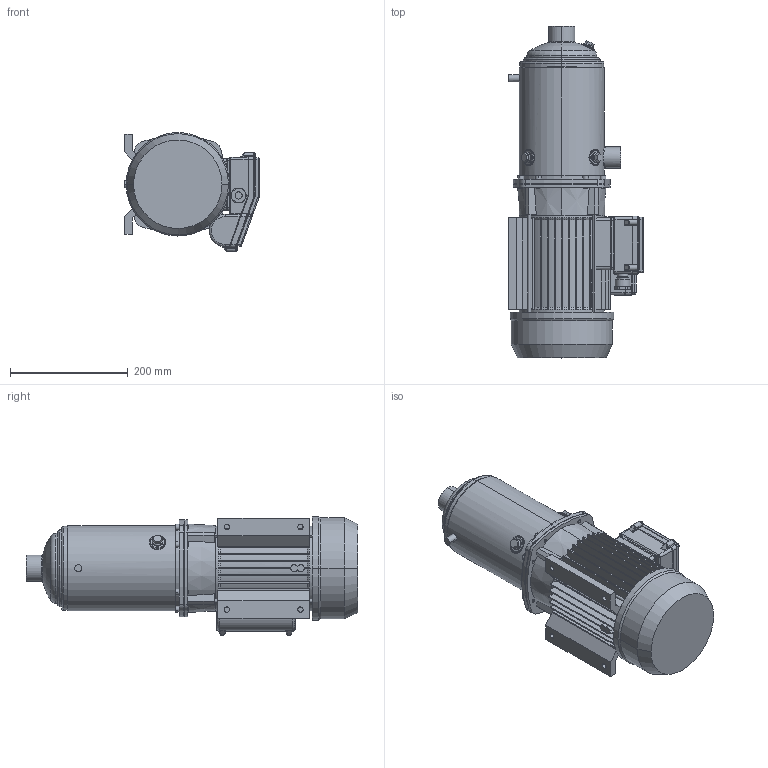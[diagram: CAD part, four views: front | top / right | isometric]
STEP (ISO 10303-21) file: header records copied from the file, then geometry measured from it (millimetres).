
FILE_DESCRIPTION((''),'2;1');
FILE_NAME('MATRIX_5-8T_2_2_M_ASM','2017-04-07T',('rosa'),('"Ebara Pumps Europe +39.444.706811"'),'PRO/ENGINEER BY PARAMETRIC TECHNOLOGY CORPORATION, 2012130','PRO/ENGINEER BY PARAMETRIC TECHNOLOGY CORPORATION, 2012130','');
FILE_SCHEMA(('AUTOMOTIVE_DESIGN { 1 0 10303 214 1 1 1 1 }'));
Length unit declared in the file: millimetre
Products named in the file (5): CORPO_POMPA_MATRIX_5-8; SUPPORTO_MATRIX_MEC_90; MEC_90X120_MONOFASE_ZAMP; COPRIMORSETTIERA_MEC80_90_M; MATRIX_5-8T_2_2_M_ASM
Assembly tree (4 placements, depth 2):
  MATRIX_5-8T_2_2_M_ASM
    CORPO_POMPA_MATRIX_5-8
    SUPPORTO_MATRIX_MEC_90
    MEC_90X120_MONOFASE_ZAMP
    COPRIMORSETTIERA_MEC80_90_M
Bounding box: 228 x 562.8 x 201.8 mm (x, y, z)
Volume: 8066917.4 mm3; surface area: 729386.6 mm2
Topology: 4 solids, 4 shells, 911 faces, 2164 edges, 1309 vertices
Faces by surface type: plane 402, cylinder 297, cone 104, bspline 56, torus 48, sphere 4
Entity records: 37239 total; most frequent: CARTESIAN_POINT 9070, DIRECTION 4442, ORIENTED_EDGE 4328, PRESENTATION_STYLE_ASSIGNMENT 2168, STYLED_ITEM 2168, CURVE_STYLE 2164, EDGE_CURVE 2164, AXIS2_PLACEMENT_3D 1712
